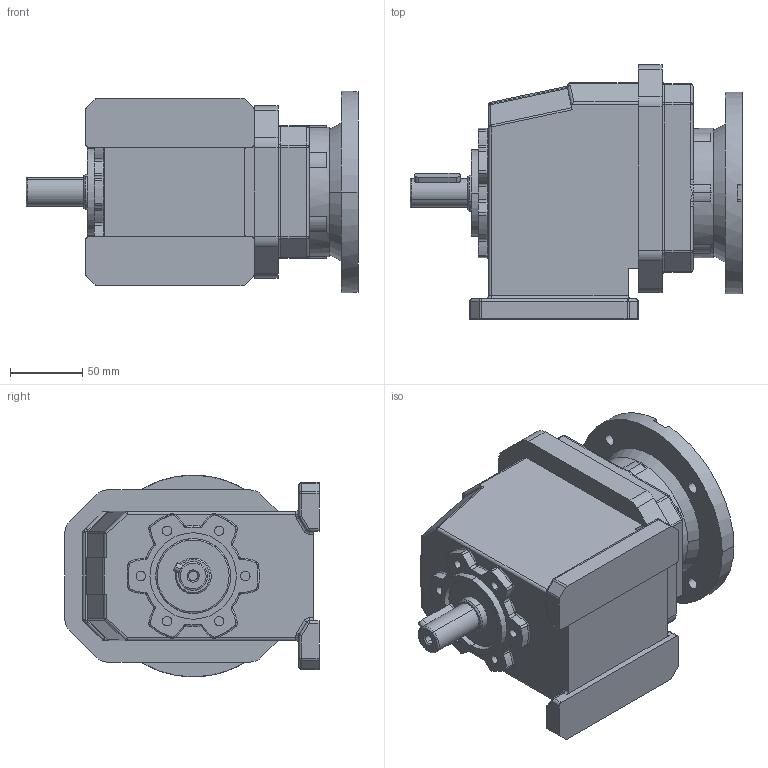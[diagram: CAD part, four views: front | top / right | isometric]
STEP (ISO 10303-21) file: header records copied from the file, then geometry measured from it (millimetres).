
FILE_DESCRIPTION (( 'STEP AP203' ), '1' );
FILE_NAME ('Red HG20 B14 24.STEP', '2019-07-16T07:05:36', ( '' ), ( '' ), 'SwSTEP 2.0', 'SolidWorks 2018', '' );
FILE_SCHEMA (( 'CONFIG_CONTROL_DESIGN' ));
Length unit declared in the file: millimetre
Products named in the file (4): HG20; Arbre 20 24; Bride B14; Red HG20 B14 24
Assembly tree (3 placements, depth 2):
  Red HG20 B14 24
    HG20
    Arbre 20 24
    Bride B14
Bounding box: 230.5 x 176.4 x 140 mm (x, y, z)
Volume: 2314978.6 mm3; surface area: 231186.9 mm2
Topology: 3 solids, 3 shells, 470 faces, 1139 edges, 675 vertices
Faces by surface type: cylinder 230, plane 107, torus 80, sphere 31, bspline 14, cone 8
Entity records: 14577 total; most frequent: CARTESIAN_POINT 2932, DIRECTION 2613, ORIENTED_EDGE 2242, EDGE_CURVE 1121, AXIS2_PLACEMENT_3D 1080, VERTEX_POINT 675, CIRCLE 618, EDGE_LOOP 512
